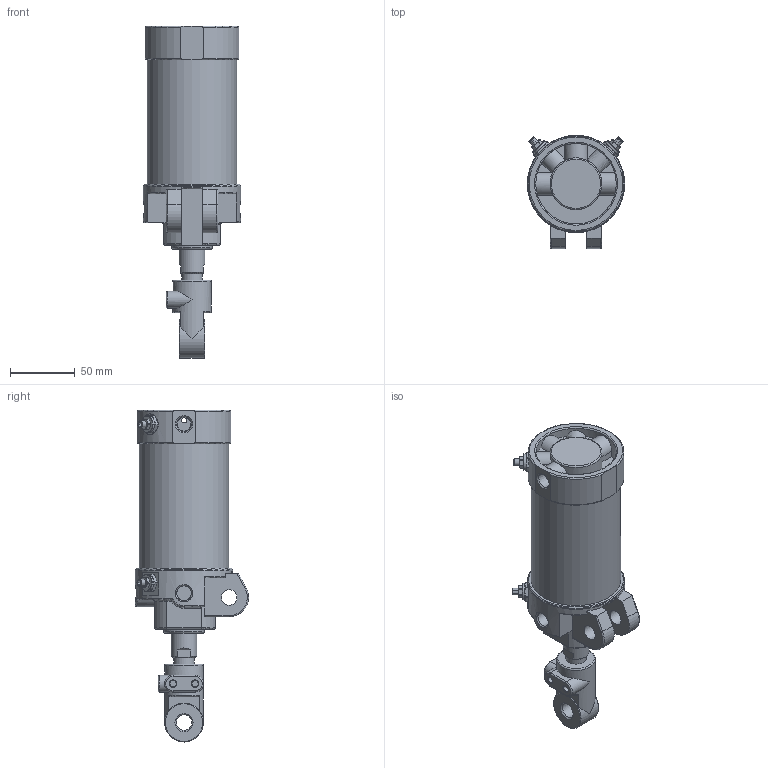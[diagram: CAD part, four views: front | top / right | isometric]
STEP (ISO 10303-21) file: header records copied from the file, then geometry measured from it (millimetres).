
FILE_DESCRIPTION((''),'2;1');
FILE_NAME('I:\3D電子目錄\氣缸\DCK\DCK\DCK-1A-63x50-I.stp','2008-02-26T15:23:56',('Administrator'),(''),'Autodesk Inventor 11','Autodesk Inventor 11','');
FILE_SCHEMA(('AUTOMOTIVE_DESIGN { 1 0 10303 214 1 1 1 1 }'));
Length unit declared in the file: millimetre
Products named in the file (6): DCK-1A-63-I; DCK-1B-63-I; 緩衝針; 緩衝針-1; 緩衝針-201; 緩衝針-3
Assembly tree (8 placements, depth 3):
  DCK-1A-63-I
    DCK-1B-63-I
    緩衝針  x4
      緩衝針-1
      緩衝針-201
      緩衝針-3
Bounding box: 75 x 87.29 x 256 mm (x, y, z)
Volume: 357494.2 mm3; surface area: 122648 mm2
Topology: 17 solids, 17 shells, 639 faces, 1407 edges, 875 vertices
Faces by surface type: plane 233, cylinder 179, cone 139, torus 49, bspline 39
Full cylindrical faces by diameter (mm): 2 x1, 3 x2, 3.8 x2, 4 x6, 4.6 x4, 5 x8, 5.1 x4, 5.2 x12, 5.5 x4, 7 x1, 7.25 x1, 7.9 x4, 8 x2, 11.3 x3, 12 x3, 12.8 x4, 16 x3, 20 x1, 21 x1, 22 x2, 23 x1, 24.7 x1, 26 x1, 27 x1, 28 x1, 29 x1, 30 x2, 31 x1, 33 x1, 62 x1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
Entity records: 13918 total; most frequent: CARTESIAN_POINT 5752, DIRECTION 1661, ORIENTED_EDGE 1492, EDGE_CURVE 746, AXIS2_PLACEMENT_3D 726, EDGE_LOOP 584, VERTEX_POINT 538, FACE_OUTER_BOUND 390
